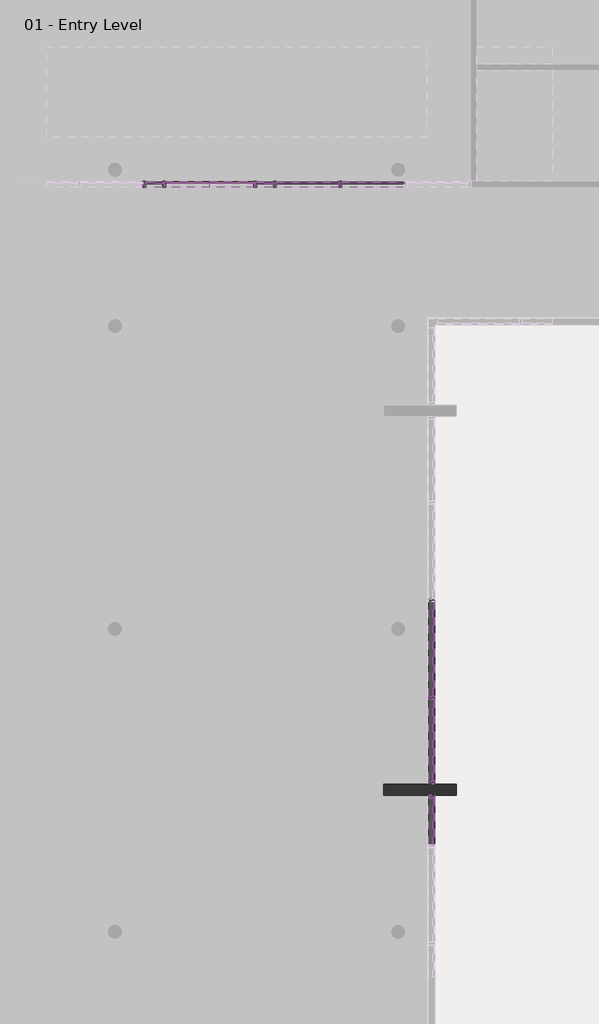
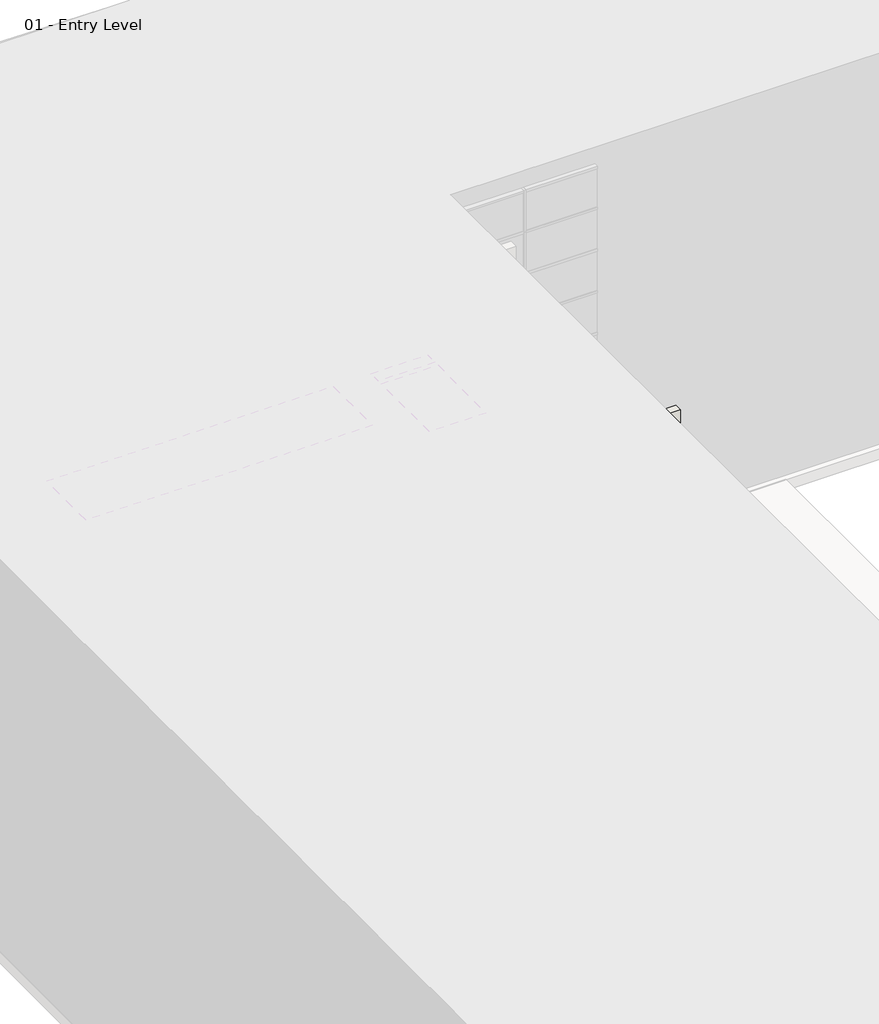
# One storey, part 24 of 34: 86 members, 35 plates, 1 door, 1 wall.
"""IFC4 building model written with IfcOpenShell, lengths in millimetres."""

from ifc_helpers import new_model, si_unit, origin, origin_with_axes, place, context, project, spatial, polyline, outline, extrude, transform, mapped, element, save
from components import curtain_wall_dbl_glass_curtain_wall_dbl_glass_a5de0235, member_2b49869a, member_75074519, member_18e22e2d, member_391b434c, member_9e90ae50, member_9193c932, member_515a5600, member_9fe7059d, member_547128e5, member_c8c2a2fa, member_6186cc23, member_5d67b9fc, member_ec52078f, member_cc8ff548, member_03a502dc, member_dfe75557, member_285f5b4f, member_410c6227, member_585e2b51, member_1526e78e, system_panel_glazed_1b9d6098, system_panel_glazed_70da479d, system_panel_glazed_bfb2913e, system_panel_glazed_9f006979, system_panel_glazed_379c68fb, system_panel_glazed_1c1023c8, system_panel_glazed_57fb76c6, system_panel_glazed_8597e1a2, system_panel_glazed_d48a954d, system_panel_glazed_239086b1, system_panel_glazed_d4f16d98

model = new_model("IFC4")

# Units and contexts
model_context = context("Model", 3, world=origin())
ifc_project = project(units=[si_unit("LENGTHUNIT", "METRE", prefix="MILLI")], contexts=[model_context])

# Site, building, storey
site = spatial("IfcSite", under=ifc_project)
building = spatial("IfcBuilding", under=site)
storey = spatial("IfcBuildingStorey", under=building, Name="01 - Entry Level", Elevation=0.0)

# Door
placement = place(None, origin())
curtain_wall_dbl_glass_curtain_wall_dbl_glass_shape = curtain_wall_dbl_glass_curtain_wall_dbl_glass_a5de0235(model_context)
element("IfcDoor", 1, ObjectType="Curtain Wall Dbl Glass : Curtain Wall Dbl Glass", at=placement, inside=storey, context=model_context, shape_type="MappedRepresentation", body=[
    mapped(curtain_wall_dbl_glass_curtain_wall_dbl_glass_shape, transform((12561.2207476, 45608.8, 0.0), x_axis=(-1.0, 0.0, 0.0), y_axis=(0.0, -1.0, 0.0), z_axis=(0.0, 0.0, 1.0))),
])

# Members
member_shape = member_2b49869a(model_context)
element("IfcMember", 2, ObjectType="Rectangular Mullion : 2.5\" x 5\" rectangular", at=placement, inside=storey, context=model_context, shape_type="MappedRepresentation", body=[
    mapped(member_shape, transform((17184.0207476, 34928.1, 9753.6), x_axis=(0.0, 1.0, 0.0), y_axis=(1.0, 0.0, 0.0), z_axis=(0.0, 0.0, -1.0))),
])
member_2_shape = member_75074519(model_context)
element("IfcMember", 3, ObjectType="Rectangular Mullion : 2.5\" x 5\" rectangular", at=placement, inside=storey, context=model_context, shape_type="MappedRepresentation", body=[
    mapped(member_2_shape, transform((17184.0207476, 33137.4, 10972.8), x_axis=(0.0, -1.0, 0.0), y_axis=(1.0, 0.0, 0.0), z_axis=(0.0, 0.0, 1.0))),
])
element("IfcMember", 4, ObjectType="Rectangular Mullion : 2.5\" x 5\" rectangular", at=placement, inside=storey, context=model_context, shape_type="MappedRepresentation", body=[
    mapped(member_2_shape, transform((17184.0207476, 32908.8, 9753.6), x_axis=(0.0, 1.0, 0.0), y_axis=(1.0, 0.0, 0.0), z_axis=(0.0, 0.0, -1.0))),
])
member_3_shape = member_18e22e2d(model_context)
element("IfcMember", 5, ObjectType="Rectangular Mullion : 2.5\" x 5\" rectangular", at=placement, inside=storey, context=model_context, shape_type="MappedRepresentation", body=[
    mapped(member_3_shape, transform((15279.0207476, 45608.8, 2438.4), x_axis=(-1.0, 0.0, 0.0), y_axis=(0.0, 1.0, 0.0), z_axis=(0.0, 0.0, -1.0))),
])
element("IfcMember", 6, ObjectType="Rectangular Mullion : 2.5\" x 5\" rectangular", at=placement, inside=storey, context=model_context, shape_type="MappedRepresentation", body=[
    mapped(member_3_shape, transform((13920.1207476, 45608.8, 2438.4), x_axis=(-1.0, 0.0, 0.0), y_axis=(0.0, 1.0, 0.0), z_axis=(0.0, 0.0, -1.0))),
])
element("IfcMember", 7, ObjectType="Rectangular Mullion : 2.5\" x 5\" rectangular", at=placement, inside=storey, context=model_context, shape_type="MappedRepresentation", body=[
    mapped(member_3_shape, transform((11202.3207476, 45608.8, 2438.4), x_axis=(-1.0, 0.0, 0.0), y_axis=(0.0, 1.0, 0.0), z_axis=(0.0, 0.0, -1.0))),
])
member_4_shape = member_391b434c(model_context)
element("IfcMember", 8, ObjectType="Rectangular Mullion : 2.5\" x 5\" rectangular", at=placement, inside=storey, context=model_context, shape_type="MappedRepresentation", body=[
    mapped(member_4_shape, transform((17184.0207476, 36928.35, 10972.8), x_axis=(0.0, 0.0, 1.0), y_axis=(1.0, 0.0, 0.0), z_axis=(0.0, 1.0, 0.0))),
])
element("IfcMember", 9, ObjectType="Rectangular Mullion : 2.5\" x 5\" rectangular", at=placement, inside=storey, context=model_context, shape_type="MappedRepresentation", body=[
    mapped(member_4_shape, transform((17184.0207476, 34959.85, 0.0), x_axis=(0.0, 0.0, -1.0), y_axis=(1.0, 0.0, 0.0), z_axis=(0.0, -1.0, 0.0))),
])
element("IfcMember", 10, ObjectType="Rectangular Mullion : 2.5\" x 5\" rectangular", at=placement, inside=storey, context=model_context, shape_type="MappedRepresentation", body=[
    mapped(member_4_shape, transform((17184.0207476, 36991.85, 0.0), x_axis=(0.0, 0.0, -1.0), y_axis=(1.0, 0.0, 0.0), z_axis=(0.0, -1.0, 0.0))),
])
member_5_shape = member_9e90ae50(model_context)
element("IfcMember", 11, ObjectType="Rectangular Mullion : 2.5\" x 5\" rectangular", at=placement, inside=storey, context=model_context, shape_type="MappedRepresentation", body=[
    mapped(member_5_shape, transform((17184.0207476, 36928.35, 1219.2), x_axis=(0.0, 0.0, 1.0), y_axis=(1.0, 0.0, 0.0), z_axis=(0.0, 1.0, 0.0))),
])
element("IfcMember", 12, ObjectType="Rectangular Mullion : 2.5\" x 5\" rectangular", at=placement, inside=storey, context=model_context, shape_type="MappedRepresentation", body=[
    mapped(member_5_shape, transform((17184.0207476, 36928.35, 2438.4), x_axis=(0.0, 0.0, 1.0), y_axis=(1.0, 0.0, 0.0), z_axis=(0.0, 1.0, 0.0))),
])
element("IfcMember", 13, ObjectType="Rectangular Mullion : 2.5\" x 5\" rectangular", at=placement, inside=storey, context=model_context, shape_type="MappedRepresentation", body=[
    mapped(member_5_shape, transform((17184.0207476, 36928.35, 3657.6), x_axis=(0.0, 0.0, 1.0), y_axis=(1.0, 0.0, 0.0), z_axis=(0.0, 1.0, 0.0))),
])
element("IfcMember", 14, ObjectType="Rectangular Mullion : 2.5\" x 5\" rectangular", at=placement, inside=storey, context=model_context, shape_type="MappedRepresentation", body=[
    mapped(member_5_shape, transform((17184.0207476, 36928.35, 4876.8), x_axis=(0.0, 0.0, 1.0), y_axis=(1.0, 0.0, 0.0), z_axis=(0.0, 1.0, 0.0))),
])
element("IfcMember", 15, ObjectType="Rectangular Mullion : 2.5\" x 5\" rectangular", at=placement, inside=storey, context=model_context, shape_type="MappedRepresentation", body=[
    mapped(member_5_shape, transform((17184.0207476, 36928.35, 6096.0), x_axis=(0.0, 0.0, 1.0), y_axis=(1.0, 0.0, 0.0), z_axis=(0.0, 1.0, 0.0))),
])
element("IfcMember", 16, ObjectType="Rectangular Mullion : 2.5\" x 5\" rectangular", at=placement, inside=storey, context=model_context, shape_type="MappedRepresentation", body=[
    mapped(member_5_shape, transform((17184.0207476, 36928.35, 7315.2), x_axis=(0.0, 0.0, 1.0), y_axis=(1.0, 0.0, 0.0), z_axis=(0.0, 1.0, 0.0))),
])
element("IfcMember", 17, ObjectType="Rectangular Mullion : 2.5\" x 5\" rectangular", at=placement, inside=storey, context=model_context, shape_type="MappedRepresentation", body=[
    mapped(member_5_shape, transform((17184.0207476, 36928.35, 8534.4), x_axis=(0.0, 0.0, 1.0), y_axis=(1.0, 0.0, 0.0), z_axis=(0.0, 1.0, 0.0))),
])
element("IfcMember", 18, ObjectType="Rectangular Mullion : 2.5\" x 5\" rectangular", at=placement, inside=storey, context=model_context, shape_type="MappedRepresentation", body=[
    mapped(member_5_shape, transform((17184.0207476, 36928.35, 9753.6), x_axis=(0.0, 0.0, 1.0), y_axis=(1.0, 0.0, 0.0), z_axis=(0.0, 1.0, 0.0))),
])
element("IfcMember", 19, ObjectType="Rectangular Mullion : 2.5\" x 5\" rectangular", at=placement, inside=storey, context=model_context, shape_type="MappedRepresentation", body=[
    mapped(member_shape, transform((17184.0207476, 34928.1, 0.0), x_axis=(0.0, 1.0, 0.0), y_axis=(1.0, 0.0, 0.0), z_axis=(0.0, 0.0, -1.0))),
])
element("IfcMember", 20, ObjectType="Rectangular Mullion : 2.5\" x 5\" rectangular", at=placement, inside=storey, context=model_context, shape_type="MappedRepresentation", body=[
    mapped(member_shape, transform((17184.0207476, 36960.1, 0.0), x_axis=(0.0, 1.0, 0.0), y_axis=(1.0, 0.0, 0.0), z_axis=(0.0, 0.0, -1.0))),
])
element("IfcMember", 21, ObjectType="Rectangular Mullion : 2.5\" x 5\" rectangular", at=placement, inside=storey, context=model_context, shape_type="MappedRepresentation", body=[
    mapped(member_shape, transform((17184.0207476, 34928.1, 1219.2), x_axis=(0.0, 1.0, 0.0), y_axis=(1.0, 0.0, 0.0), z_axis=(0.0, 0.0, -1.0))),
])
element("IfcMember", 22, ObjectType="Rectangular Mullion : 2.5\" x 5\" rectangular", at=placement, inside=storey, context=model_context, shape_type="MappedRepresentation", body=[
    mapped(member_shape, transform((17184.0207476, 34928.1, 2438.4), x_axis=(0.0, 1.0, 0.0), y_axis=(1.0, 0.0, 0.0), z_axis=(0.0, 0.0, -1.0))),
])
element("IfcMember", 23, ObjectType="Rectangular Mullion : 2.5\" x 5\" rectangular", at=placement, inside=storey, context=model_context, shape_type="MappedRepresentation", body=[
    mapped(member_shape, transform((17184.0207476, 34928.1, 3657.6), x_axis=(0.0, 1.0, 0.0), y_axis=(1.0, 0.0, 0.0), z_axis=(0.0, 0.0, -1.0))),
])
element("IfcMember", 24, ObjectType="Rectangular Mullion : 2.5\" x 5\" rectangular", at=placement, inside=storey, context=model_context, shape_type="MappedRepresentation", body=[
    mapped(member_shape, transform((17184.0207476, 34928.1, 4876.8), x_axis=(0.0, 1.0, 0.0), y_axis=(1.0, 0.0, 0.0), z_axis=(0.0, 0.0, -1.0))),
])
element("IfcMember", 25, ObjectType="Rectangular Mullion : 2.5\" x 5\" rectangular", at=placement, inside=storey, context=model_context, shape_type="MappedRepresentation", body=[
    mapped(member_shape, transform((17184.0207476, 34928.1, 6096.0), x_axis=(0.0, 1.0, 0.0), y_axis=(1.0, 0.0, 0.0), z_axis=(0.0, 0.0, -1.0))),
])
element("IfcMember", 26, ObjectType="Rectangular Mullion : 2.5\" x 5\" rectangular", at=placement, inside=storey, context=model_context, shape_type="MappedRepresentation", body=[
    mapped(member_shape, transform((17184.0207476, 34928.1, 7315.2), x_axis=(0.0, 1.0, 0.0), y_axis=(1.0, 0.0, 0.0), z_axis=(0.0, 0.0, -1.0))),
])
element("IfcMember", 27, ObjectType="Rectangular Mullion : 2.5\" x 5\" rectangular", at=placement, inside=storey, context=model_context, shape_type="MappedRepresentation", body=[
    mapped(member_shape, transform((17184.0207476, 34928.1, 8534.4), x_axis=(0.0, 1.0, 0.0), y_axis=(1.0, 0.0, 0.0), z_axis=(0.0, 0.0, -1.0))),
])
element("IfcMember", 28, ObjectType="Rectangular Mullion : 2.5\" x 5\" rectangular", at=placement, inside=storey, context=model_context, shape_type="MappedRepresentation", body=[
    mapped(member_2_shape, transform((17184.0207476, 32908.8, 0.0), x_axis=(0.0, 1.0, 0.0), y_axis=(1.0, 0.0, 0.0), z_axis=(0.0, 0.0, -1.0))),
])
element("IfcMember", 29, ObjectType="Rectangular Mullion : 2.5\" x 5\" rectangular", at=placement, inside=storey, context=model_context, shape_type="MappedRepresentation", body=[
    mapped(member_2_shape, transform((17184.0207476, 32908.8, 1219.2), x_axis=(0.0, 1.0, 0.0), y_axis=(1.0, 0.0, 0.0), z_axis=(0.0, 0.0, -1.0))),
])
element("IfcMember", 30, ObjectType="Rectangular Mullion : 2.5\" x 5\" rectangular", at=placement, inside=storey, context=model_context, shape_type="MappedRepresentation", body=[
    mapped(member_2_shape, transform((17184.0207476, 32908.8, 2438.4), x_axis=(0.0, 1.0, 0.0), y_axis=(1.0, 0.0, 0.0), z_axis=(0.0, 0.0, -1.0))),
])
element("IfcMember", 31, ObjectType="Rectangular Mullion : 2.5\" x 5\" rectangular", at=placement, inside=storey, context=model_context, shape_type="MappedRepresentation", body=[
    mapped(member_2_shape, transform((17184.0207476, 32908.8, 3657.6), x_axis=(0.0, 1.0, 0.0), y_axis=(1.0, 0.0, 0.0), z_axis=(0.0, 0.0, -1.0))),
])
element("IfcMember", 32, ObjectType="Rectangular Mullion : 2.5\" x 5\" rectangular", at=placement, inside=storey, context=model_context, shape_type="MappedRepresentation", body=[
    mapped(member_2_shape, transform((17184.0207476, 32908.8, 4876.8), x_axis=(0.0, 1.0, 0.0), y_axis=(1.0, 0.0, 0.0), z_axis=(0.0, 0.0, -1.0))),
])
element("IfcMember", 33, ObjectType="Rectangular Mullion : 2.5\" x 5\" rectangular", at=placement, inside=storey, context=model_context, shape_type="MappedRepresentation", body=[
    mapped(member_2_shape, transform((17184.0207476, 32908.8, 6096.0), x_axis=(0.0, 1.0, 0.0), y_axis=(1.0, 0.0, 0.0), z_axis=(0.0, 0.0, -1.0))),
])
element("IfcMember", 34, ObjectType="Rectangular Mullion : 2.5\" x 5\" rectangular", at=placement, inside=storey, context=model_context, shape_type="MappedRepresentation", body=[
    mapped(member_2_shape, transform((17184.0207476, 32908.8, 7315.2), x_axis=(0.0, 1.0, 0.0), y_axis=(1.0, 0.0, 0.0), z_axis=(0.0, 0.0, -1.0))),
])
element("IfcMember", 35, ObjectType="Rectangular Mullion : 2.5\" x 5\" rectangular", at=placement, inside=storey, context=model_context, shape_type="MappedRepresentation", body=[
    mapped(member_2_shape, transform((17184.0207476, 32908.8, 8534.4), x_axis=(0.0, 1.0, 0.0), y_axis=(1.0, 0.0, 0.0), z_axis=(0.0, 0.0, -1.0))),
])
element("IfcMember", 36, ObjectType="Rectangular Mullion : 2.5\" x 5\" rectangular", at=placement, inside=storey, context=model_context, shape_type="MappedRepresentation", body=[
    mapped(member_2_shape, transform((17184.0207476, 33137.4, 1219.2), x_axis=(0.0, -1.0, 0.0), y_axis=(1.0, 0.0, 0.0), z_axis=(0.0, 0.0, 1.0))),
])
element("IfcMember", 37, ObjectType="Rectangular Mullion : 2.5\" x 5\" rectangular", at=placement, inside=storey, context=model_context, shape_type="MappedRepresentation", body=[
    mapped(member_2_shape, transform((17184.0207476, 33137.4, 2438.4), x_axis=(0.0, -1.0, 0.0), y_axis=(1.0, 0.0, 0.0), z_axis=(0.0, 0.0, 1.0))),
])
element("IfcMember", 38, ObjectType="Rectangular Mullion : 2.5\" x 5\" rectangular", at=placement, inside=storey, context=model_context, shape_type="MappedRepresentation", body=[
    mapped(member_2_shape, transform((17184.0207476, 33137.4, 3657.6), x_axis=(0.0, -1.0, 0.0), y_axis=(1.0, 0.0, 0.0), z_axis=(0.0, 0.0, 1.0))),
])
element("IfcMember", 39, ObjectType="Rectangular Mullion : 2.5\" x 5\" rectangular", at=placement, inside=storey, context=model_context, shape_type="MappedRepresentation", body=[
    mapped(member_2_shape, transform((17184.0207476, 33137.4, 4876.8), x_axis=(0.0, -1.0, 0.0), y_axis=(1.0, 0.0, 0.0), z_axis=(0.0, 0.0, 1.0))),
])
element("IfcMember", 40, ObjectType="Rectangular Mullion : 2.5\" x 5\" rectangular", at=placement, inside=storey, context=model_context, shape_type="MappedRepresentation", body=[
    mapped(member_2_shape, transform((17184.0207476, 33137.4, 6096.0), x_axis=(0.0, -1.0, 0.0), y_axis=(1.0, 0.0, 0.0), z_axis=(0.0, 0.0, 1.0))),
])
element("IfcMember", 41, ObjectType="Rectangular Mullion : 2.5\" x 5\" rectangular", at=placement, inside=storey, context=model_context, shape_type="MappedRepresentation", body=[
    mapped(member_2_shape, transform((17184.0207476, 33137.4, 7315.2), x_axis=(0.0, -1.0, 0.0), y_axis=(1.0, 0.0, 0.0), z_axis=(0.0, 0.0, 1.0))),
])
element("IfcMember", 42, ObjectType="Rectangular Mullion : 2.5\" x 5\" rectangular", at=placement, inside=storey, context=model_context, shape_type="MappedRepresentation", body=[
    mapped(member_2_shape, transform((17184.0207476, 33137.4, 8534.4), x_axis=(0.0, -1.0, 0.0), y_axis=(1.0, 0.0, 0.0), z_axis=(0.0, 0.0, 1.0))),
])
element("IfcMember", 43, ObjectType="Rectangular Mullion : 2.5\" x 5\" rectangular", at=placement, inside=storey, context=model_context, shape_type="MappedRepresentation", body=[
    mapped(member_2_shape, transform((17184.0207476, 33137.4, 9753.6), x_axis=(0.0, -1.0, 0.0), y_axis=(1.0, 0.0, 0.0), z_axis=(0.0, 0.0, 1.0))),
])
member_6_shape = member_9193c932(model_context)
element("IfcMember", 44, ObjectType="Rectangular Mullion : 2.5\" x 5\" rectangular", at=placement, inside=storey, context=model_context, shape_type="MappedRepresentation", body=[
    mapped(member_6_shape, transform((17184.0207476, 32845.3, 10972.8), x_axis=(0.0, 0.0, 1.0), y_axis=(1.0, 0.0, 0.0), z_axis=(0.0, 1.0, 0.0))),
])
element("IfcMember", 45, ObjectType="Rectangular Mullion : 2.5\" x 5\" rectangular", at=placement, inside=storey, context=model_context, shape_type="MappedRepresentation", body=[
    mapped(member_3_shape, transform((17184.0207476, 32845.3, 1219.2), x_axis=(0.0, 0.0, 1.0), y_axis=(1.0, 0.0, 0.0), z_axis=(0.0, 1.0, 0.0))),
])
element("IfcMember", 46, ObjectType="Rectangular Mullion : 2.5\" x 5\" rectangular", at=placement, inside=storey, context=model_context, shape_type="MappedRepresentation", body=[
    mapped(member_3_shape, transform((17184.0207476, 32845.3, 2438.4), x_axis=(0.0, 0.0, 1.0), y_axis=(1.0, 0.0, 0.0), z_axis=(0.0, 1.0, 0.0))),
])
element("IfcMember", 47, ObjectType="Rectangular Mullion : 2.5\" x 5\" rectangular", at=placement, inside=storey, context=model_context, shape_type="MappedRepresentation", body=[
    mapped(member_3_shape, transform((17184.0207476, 32845.3, 3657.6), x_axis=(0.0, 0.0, 1.0), y_axis=(1.0, 0.0, 0.0), z_axis=(0.0, 1.0, 0.0))),
])
element("IfcMember", 48, ObjectType="Rectangular Mullion : 2.5\" x 5\" rectangular", at=placement, inside=storey, context=model_context, shape_type="MappedRepresentation", body=[
    mapped(member_3_shape, transform((17184.0207476, 32845.3, 4876.8), x_axis=(0.0, 0.0, 1.0), y_axis=(1.0, 0.0, 0.0), z_axis=(0.0, 1.0, 0.0))),
])
element("IfcMember", 49, ObjectType="Rectangular Mullion : 2.5\" x 5\" rectangular", at=placement, inside=storey, context=model_context, shape_type="MappedRepresentation", body=[
    mapped(member_3_shape, transform((17184.0207476, 32845.3, 6096.0), x_axis=(0.0, 0.0, 1.0), y_axis=(1.0, 0.0, 0.0), z_axis=(0.0, 1.0, 0.0))),
])
element("IfcMember", 50, ObjectType="Rectangular Mullion : 2.5\" x 5\" rectangular", at=placement, inside=storey, context=model_context, shape_type="MappedRepresentation", body=[
    mapped(member_3_shape, transform((17184.0207476, 32845.3, 7315.2), x_axis=(0.0, 0.0, 1.0), y_axis=(1.0, 0.0, 0.0), z_axis=(0.0, 1.0, 0.0))),
])
element("IfcMember", 51, ObjectType="Rectangular Mullion : 2.5\" x 5\" rectangular", at=placement, inside=storey, context=model_context, shape_type="MappedRepresentation", body=[
    mapped(member_3_shape, transform((17184.0207476, 32845.3, 8534.4), x_axis=(0.0, 0.0, 1.0), y_axis=(1.0, 0.0, 0.0), z_axis=(0.0, 1.0, 0.0))),
])
element("IfcMember", 52, ObjectType="Rectangular Mullion : 2.5\" x 5\" rectangular", at=placement, inside=storey, context=model_context, shape_type="MappedRepresentation", body=[
    mapped(member_3_shape, transform((17184.0207476, 32845.3, 9753.6), x_axis=(0.0, 0.0, 1.0), y_axis=(1.0, 0.0, 0.0), z_axis=(0.0, 1.0, 0.0))),
])
member_7_shape = member_515a5600(model_context)
element("IfcMember", 53, ObjectType="Rectangular Mullion : 2.5\" x 5\" rectangular", at=placement, inside=storey, context=model_context, shape_type="MappedRepresentation", body=[
    mapped(member_7_shape, transform((17184.0207476, 34896.35, 10972.8), x_axis=(0.0, 0.0, 1.0), y_axis=(1.0, 0.0, 0.0), z_axis=(0.0, 1.0, 0.0))),
])
element("IfcMember", 54, ObjectType="Rectangular Mullion : 2.5\" x 5\" rectangular", at=placement, inside=storey, context=model_context, shape_type="MappedRepresentation", body=[
    mapped(member_7_shape, transform((17184.0207476, 33200.9, 0.0), x_axis=(0.0, 0.0, -1.0), y_axis=(1.0, 0.0, 0.0), z_axis=(0.0, -1.0, 0.0))),
])
member_8_shape = member_9fe7059d(model_context)
element("IfcMember", 55, ObjectType="Rectangular Mullion : 2.5\" x 5\" rectangular", at=placement, inside=storey, context=model_context, shape_type="MappedRepresentation", body=[
    mapped(member_8_shape, transform((17184.0207476, 34896.35, 1219.2), x_axis=(0.0, 0.0, 1.0), y_axis=(1.0, 0.0, 0.0), z_axis=(0.0, 1.0, 0.0))),
])
element("IfcMember", 56, ObjectType="Rectangular Mullion : 2.5\" x 5\" rectangular", at=placement, inside=storey, context=model_context, shape_type="MappedRepresentation", body=[
    mapped(member_8_shape, transform((17184.0207476, 34896.35, 2438.4), x_axis=(0.0, 0.0, 1.0), y_axis=(1.0, 0.0, 0.0), z_axis=(0.0, 1.0, 0.0))),
])
element("IfcMember", 57, ObjectType="Rectangular Mullion : 2.5\" x 5\" rectangular", at=placement, inside=storey, context=model_context, shape_type="MappedRepresentation", body=[
    mapped(member_8_shape, transform((17184.0207476, 34896.35, 3657.6), x_axis=(0.0, 0.0, 1.0), y_axis=(1.0, 0.0, 0.0), z_axis=(0.0, 1.0, 0.0))),
])
element("IfcMember", 58, ObjectType="Rectangular Mullion : 2.5\" x 5\" rectangular", at=placement, inside=storey, context=model_context, shape_type="MappedRepresentation", body=[
    mapped(member_8_shape, transform((17184.0207476, 34896.35, 4876.8), x_axis=(0.0, 0.0, 1.0), y_axis=(1.0, 0.0, 0.0), z_axis=(0.0, 1.0, 0.0))),
])
element("IfcMember", 59, ObjectType="Rectangular Mullion : 2.5\" x 5\" rectangular", at=placement, inside=storey, context=model_context, shape_type="MappedRepresentation", body=[
    mapped(member_8_shape, transform((17184.0207476, 34896.35, 6096.0), x_axis=(0.0, 0.0, 1.0), y_axis=(1.0, 0.0, 0.0), z_axis=(0.0, 1.0, 0.0))),
])
element("IfcMember", 60, ObjectType="Rectangular Mullion : 2.5\" x 5\" rectangular", at=placement, inside=storey, context=model_context, shape_type="MappedRepresentation", body=[
    mapped(member_8_shape, transform((17184.0207476, 34896.35, 7315.2), x_axis=(0.0, 0.0, 1.0), y_axis=(1.0, 0.0, 0.0), z_axis=(0.0, 1.0, 0.0))),
])
element("IfcMember", 61, ObjectType="Rectangular Mullion : 2.5\" x 5\" rectangular", at=placement, inside=storey, context=model_context, shape_type="MappedRepresentation", body=[
    mapped(member_8_shape, transform((17184.0207476, 34896.35, 8534.4), x_axis=(0.0, 0.0, 1.0), y_axis=(1.0, 0.0, 0.0), z_axis=(0.0, 1.0, 0.0))),
])
element("IfcMember", 62, ObjectType="Rectangular Mullion : 2.5\" x 5\" rectangular", at=placement, inside=storey, context=model_context, shape_type="MappedRepresentation", body=[
    mapped(member_8_shape, transform((17184.0207476, 34896.35, 9753.6), x_axis=(0.0, 0.0, 1.0), y_axis=(1.0, 0.0, 0.0), z_axis=(0.0, 1.0, 0.0))),
])
member_9_shape = member_547128e5(model_context)
element("IfcMember", 63, ObjectType="Rectangular Mullion : 2.5\" x 5\" rectangular", at=placement, inside=storey, context=model_context, shape_type="MappedRepresentation", body=[
    mapped(member_9_shape, transform((15310.7707476, 45608.8, 3403.6), x_axis=(0.0, 0.0, 1.0), y_axis=(0.0, 1.0, 0.0), z_axis=(-1.0, 0.0, 0.0))),
])
element("IfcMember", 64, ObjectType="Rectangular Mullion : 2.5\" x 5\" rectangular", at=placement, inside=storey, context=model_context, shape_type="MappedRepresentation", body=[
    mapped(member_9_shape, transform((13951.8707476, 45608.8, 3403.6), x_axis=(0.0, 0.0, 1.0), y_axis=(0.0, 1.0, 0.0), z_axis=(-1.0, 0.0, 0.0))),
])
element("IfcMember", 65, ObjectType="Rectangular Mullion : 2.5\" x 5\" rectangular", at=placement, inside=storey, context=model_context, shape_type="MappedRepresentation", body=[
    mapped(member_9_shape, transform((15247.2707476, 45608.8, 0.0), x_axis=(0.0, 0.0, -1.0), y_axis=(0.0, 1.0, 0.0), z_axis=(1.0, 0.0, 0.0))),
])
member_10_shape = member_c8c2a2fa(model_context)
element("IfcMember", 66, ObjectType="Rectangular Mullion : 2.5\" x 5\" rectangular", at=placement, inside=storey, context=model_context, shape_type="MappedRepresentation", body=[
    mapped(member_10_shape, transform((15310.7707476, 45608.8, 2438.4), x_axis=(0.0, 0.0, 1.0), y_axis=(0.0, 1.0, 0.0), z_axis=(-1.0, 0.0, 0.0))),
])
element("IfcMember", 67, ObjectType="Rectangular Mullion : 2.5\" x 5\" rectangular", at=placement, inside=storey, context=model_context, shape_type="MappedRepresentation", body=[
    mapped(member_10_shape, transform((13951.8707476, 45608.8, 2438.4), x_axis=(0.0, 0.0, 1.0), y_axis=(0.0, 1.0, 0.0), z_axis=(-1.0, 0.0, 0.0))),
])
member_11_shape = member_6186cc23(model_context)
element("IfcMember", 68, ObjectType="Rectangular Mullion : 2.5\" x 5\" rectangular", at=placement, inside=storey, context=model_context, shape_type="MappedRepresentation", body=[
    mapped(member_11_shape, transform((13920.1207476, 45608.8, 0.0), x_axis=(-1.0, 0.0, 0.0), y_axis=(0.0, 1.0, 0.0), z_axis=(0.0, 0.0, -1.0))),
])
element("IfcMember", 69, ObjectType="Rectangular Mullion : 2.5\" x 5\" rectangular", at=placement, inside=storey, context=model_context, shape_type="MappedRepresentation", body=[
    mapped(member_11_shape, transform((11202.3207476, 45608.8, 0.0), x_axis=(-1.0, 0.0, 0.0), y_axis=(0.0, 1.0, 0.0), z_axis=(0.0, 0.0, -1.0))),
])
member_12_shape = member_5d67b9fc(model_context)
element("IfcMember", 70, ObjectType="Rectangular Mullion : 2.5\" x 5\" rectangular", at=placement, inside=storey, context=model_context, shape_type="MappedRepresentation", body=[
    mapped(member_12_shape, transform((13920.1207476, 45608.8, 2165.35), x_axis=(-1.0, 0.0, 0.0), y_axis=(0.0, 1.0, 0.0), z_axis=(0.0, 0.0, -1.0))),
])
element("IfcMember", 71, ObjectType="Rectangular Mullion : 2.5\" x 5\" rectangular", at=placement, inside=storey, context=model_context, shape_type="MappedRepresentation", body=[
    mapped(member_12_shape, transform((11202.3207476, 45608.8, 2165.35), x_axis=(-1.0, 0.0, 0.0), y_axis=(0.0, 1.0, 0.0), z_axis=(0.0, 0.0, -1.0))),
])
element("IfcMember", 72, ObjectType="Rectangular Mullion : 2.5\" x 5\" rectangular", at=placement, inside=storey, context=model_context, shape_type="MappedRepresentation", body=[
    mapped(member_11_shape, transform((15279.0207476, 45608.8, 0.0), x_axis=(-1.0, 0.0, 0.0), y_axis=(0.0, 1.0, 0.0), z_axis=(0.0, 0.0, -1.0))),
])
element("IfcMember", 73, ObjectType="Rectangular Mullion : 2.5\" x 5\" rectangular", at=placement, inside=storey, context=model_context, shape_type="MappedRepresentation", body=[
    mapped(member_12_shape, transform((15279.0207476, 45608.8, 2165.35), x_axis=(-1.0, 0.0, 0.0), y_axis=(0.0, 1.0, 0.0), z_axis=(0.0, 0.0, -1.0))),
])
member_13_shape = member_ec52078f(model_context)
element("IfcMember", 74, ObjectType="Rectangular Mullion : 2.5\" x 5\" rectangular", at=placement, inside=storey, context=model_context, shape_type="MappedRepresentation", body=[
    mapped(member_13_shape, transform((12561.2207476, 45608.8, 2438.4), x_axis=(0.0, 0.0, 1.0), y_axis=(0.0, 1.0, 0.0), z_axis=(-1.0, 0.0, 0.0))),
])
member_14_shape = member_cc8ff548(model_context)
element("IfcMember", 75, ObjectType="Rectangular Mullion : 2.5\" x 5\" rectangular", at=placement, inside=storey, context=model_context, shape_type="MappedRepresentation", body=[
    mapped(member_14_shape, transform((12561.2207476, 45608.8, 3403.6), x_axis=(0.0, 0.0, 1.0), y_axis=(0.0, 1.0, 0.0), z_axis=(-1.0, 0.0, 0.0))),
])
element("IfcMember", 76, ObjectType="Rectangular Mullion : 2.5\" x 5\" rectangular", at=placement, inside=storey, context=model_context, shape_type="MappedRepresentation", body=[
    mapped(member_14_shape, transform((11615.0707476, 45608.8, 3403.6), x_axis=(0.0, 0.0, 1.0), y_axis=(0.0, 1.0, 0.0), z_axis=(-1.0, 0.0, 0.0))),
])
member_15_shape = member_03a502dc(model_context)
element("IfcMember", 77, ObjectType="Rectangular Mullion : 2.5\" x 5\" rectangular", at=placement, inside=storey, context=model_context, shape_type="MappedRepresentation", body=[
    mapped(member_15_shape, transform((11234.0707476, 45608.8, 2438.4), x_axis=(0.0, 0.0, 1.0), y_axis=(0.0, 1.0, 0.0), z_axis=(-1.0, 0.0, 0.0))),
])
element("IfcMember", 78, ObjectType="Rectangular Mullion : 2.5\" x 5\" rectangular", at=placement, inside=storey, context=model_context, shape_type="MappedRepresentation", body=[
    mapped(member_15_shape, transform((13507.3707476, 45608.8, 2438.4), x_axis=(0.0, 0.0, 1.0), y_axis=(0.0, 1.0, 0.0), z_axis=(-1.0, 0.0, 0.0))),
])
member_16_shape = member_dfe75557(model_context)
element("IfcMember", 79, ObjectType="Rectangular Mullion : 2.5\" x 5\" rectangular", at=placement, inside=storey, context=model_context, shape_type="MappedRepresentation", body=[
    mapped(member_16_shape, transform((13507.3707476, 45608.8, 3403.6), x_axis=(0.0, 0.0, 1.0), y_axis=(0.0, 1.0, 0.0), z_axis=(-1.0, 0.0, 0.0))),
])
member_17_shape = member_285f5b4f(model_context)
element("IfcMember", 80, ObjectType="Rectangular Mullion : 2.5\" x 5\" rectangular", at=placement, inside=storey, context=model_context, shape_type="MappedRepresentation", body=[
    mapped(member_17_shape, transform((11583.3207476, 45608.8, 0.0), x_axis=(0.0, 0.0, -1.0), y_axis=(0.0, 1.0, 0.0), z_axis=(1.0, 0.0, 0.0))),
])
element("IfcMember", 81, ObjectType="Rectangular Mullion : 2.5\" x 5\" rectangular", at=placement, inside=storey, context=model_context, shape_type="MappedRepresentation", body=[
    mapped(member_17_shape, transform((13888.3707476, 45608.8, 0.0), x_axis=(0.0, 0.0, -1.0), y_axis=(0.0, 1.0, 0.0), z_axis=(1.0, 0.0, 0.0))),
])
member_18_shape = member_410c6227(model_context)
element("IfcMember", 82, ObjectType="Rectangular Mullion : 2.5\" x 5\" rectangular", at=placement, inside=storey, context=model_context, shape_type="MappedRepresentation", body=[
    mapped(member_18_shape, transform((11646.8207476, 45608.8, 2165.35), x_axis=(0.0, 0.0, 1.0), y_axis=(0.0, 1.0, 0.0), z_axis=(-1.0, 0.0, 0.0))),
])
member_19_shape = member_585e2b51(model_context)
element("IfcMember", 83, ObjectType="Rectangular Mullion : 2.5\" x 5\" rectangular", at=placement, inside=storey, context=model_context, shape_type="MappedRepresentation", body=[
    mapped(member_19_shape, transform((13539.1207476, 45608.8, 2165.35), x_axis=(0.0, 0.0, 1.0), y_axis=(0.0, 1.0, 0.0), z_axis=(-1.0, 0.0, 0.0))),
])
element("IfcMember", 84, ObjectType="Rectangular Mullion : 2.5\" x 5\" rectangular", at=placement, inside=storey, context=model_context, shape_type="MappedRepresentation", body=[
    mapped(member_19_shape, transform((11234.0707476, 45608.8, 2165.35), x_axis=(0.0, 0.0, 1.0), y_axis=(0.0, 1.0, 0.0), z_axis=(-1.0, 0.0, 0.0))),
])
member_20_shape = member_1526e78e(model_context)
element("IfcMember", 85, ObjectType="Rectangular Mullion : 2.5\" x 5\" rectangular", at=placement, inside=storey, context=model_context, shape_type="MappedRepresentation", body=[
    mapped(member_20_shape, transform((11615.0707476, 45608.8, 0.0), x_axis=(-1.0, 0.0, 0.0), y_axis=(0.0, 1.0, 0.0), z_axis=(0.0, 0.0, -1.0))),
])
element("IfcMember", 86, ObjectType="Rectangular Mullion : 2.5\" x 5\" rectangular", at=placement, inside=storey, context=model_context, shape_type="MappedRepresentation", body=[
    mapped(member_20_shape, transform((13507.3707476, 45608.8, 0.0), x_axis=(-1.0, 0.0, 0.0), y_axis=(0.0, 1.0, 0.0), z_axis=(0.0, 0.0, -1.0))),
])
element("IfcMember", 87, ObjectType="Rectangular Mullion : 2.5\" x 5\" rectangular", at=placement, inside=storey, context=model_context, shape_type="MappedRepresentation", body=[
    mapped(member_18_shape, transform((12561.2207476, 45608.8, 2165.35), x_axis=(0.0, 0.0, 1.0), y_axis=(0.0, 1.0, 0.0), z_axis=(-1.0, 0.0, 0.0))),
])

# Plates
system_panel_glazed_shape = system_panel_glazed_1b9d6098(model_context)
element("IfcPlate", 88, ObjectType="System Panel : Glazed", at=placement, inside=storey, context=model_context, shape_type="MappedRepresentation", body=[
    mapped(system_panel_glazed_shape, transform((17184.0207476, 35944.1, 63.5), x_axis=(0.0, 1.0, 0.0), y_axis=(-1.0, 0.0, 0.0), z_axis=(0.0, 0.0, 1.0))),
])
element("IfcPlate", 89, ObjectType="System Panel : Glazed", at=placement, inside=storey, context=model_context, shape_type="MappedRepresentation", body=[
    mapped(system_panel_glazed_shape, transform((17184.0207476, 35944.1, 9785.35), x_axis=(0.0, 1.0, 0.0), y_axis=(-1.0, 0.0, 0.0), z_axis=(0.0, 0.0, 1.0))),
])
system_panel_glazed_2_shape = system_panel_glazed_70da479d(model_context)
element("IfcPlate", 90, ObjectType="System Panel : Glazed", at=placement, inside=storey, context=model_context, shape_type="MappedRepresentation", body=[
    mapped(system_panel_glazed_2_shape, transform((17184.0207476, 35944.1, 1250.95), x_axis=(0.0, 1.0, 0.0), y_axis=(-1.0, 0.0, 0.0), z_axis=(0.0, 0.0, 1.0))),
])
element("IfcPlate", 91, ObjectType="System Panel : Glazed", at=placement, inside=storey, context=model_context, shape_type="MappedRepresentation", body=[
    mapped(system_panel_glazed_2_shape, transform((17184.0207476, 35944.1, 2470.15), x_axis=(0.0, 1.0, 0.0), y_axis=(-1.0, 0.0, 0.0), z_axis=(0.0, 0.0, 1.0))),
])
element("IfcPlate", 92, ObjectType="System Panel : Glazed", at=placement, inside=storey, context=model_context, shape_type="MappedRepresentation", body=[
    mapped(system_panel_glazed_2_shape, transform((17184.0207476, 35944.1, 3689.35), x_axis=(0.0, 1.0, 0.0), y_axis=(-1.0, 0.0, 0.0), z_axis=(0.0, 0.0, 1.0))),
])
element("IfcPlate", 93, ObjectType="System Panel : Glazed", at=placement, inside=storey, context=model_context, shape_type="MappedRepresentation", body=[
    mapped(system_panel_glazed_2_shape, transform((17184.0207476, 35944.1, 4908.55), x_axis=(0.0, 1.0, 0.0), y_axis=(-1.0, 0.0, 0.0), z_axis=(0.0, 0.0, 1.0))),
])
element("IfcPlate", 94, ObjectType="System Panel : Glazed", at=placement, inside=storey, context=model_context, shape_type="MappedRepresentation", body=[
    mapped(system_panel_glazed_2_shape, transform((17184.0207476, 35944.1, 6127.75), x_axis=(0.0, 1.0, 0.0), y_axis=(-1.0, 0.0, 0.0), z_axis=(0.0, 0.0, 1.0))),
])
element("IfcPlate", 95, ObjectType="System Panel : Glazed", at=placement, inside=storey, context=model_context, shape_type="MappedRepresentation", body=[
    mapped(system_panel_glazed_2_shape, transform((17184.0207476, 35944.1, 7346.95), x_axis=(0.0, 1.0, 0.0), y_axis=(-1.0, 0.0, 0.0), z_axis=(0.0, 0.0, 1.0))),
])
element("IfcPlate", 96, ObjectType="System Panel : Glazed", at=placement, inside=storey, context=model_context, shape_type="MappedRepresentation", body=[
    mapped(system_panel_glazed_2_shape, transform((17184.0207476, 35944.1, 8566.15), x_axis=(0.0, 1.0, 0.0), y_axis=(-1.0, 0.0, 0.0), z_axis=(0.0, 0.0, 1.0))),
])
system_panel_glazed_3_shape = system_panel_glazed_bfb2913e(model_context)
element("IfcPlate", 97, ObjectType="System Panel : Glazed", at=placement, inside=storey, context=model_context, shape_type="MappedRepresentation", body=[
    mapped(system_panel_glazed_3_shape, transform((17184.0207476, 32362.7, 63.5), x_axis=(0.0, 1.0, 0.0), y_axis=(-1.0, 0.0, 0.0), z_axis=(0.0, 0.0, 1.0))),
])
element("IfcPlate", 98, ObjectType="System Panel : Glazed", at=placement, inside=storey, context=model_context, shape_type="MappedRepresentation", body=[
    mapped(system_panel_glazed_3_shape, transform((17184.0207476, 32362.7, 9785.35), x_axis=(0.0, 1.0, 0.0), y_axis=(-1.0, 0.0, 0.0), z_axis=(0.0, 0.0, 1.0))),
])
system_panel_glazed_4_shape = system_panel_glazed_9f006979(model_context)
element("IfcPlate", 99, ObjectType="System Panel : Glazed", at=placement, inside=storey, context=model_context, shape_type="MappedRepresentation", body=[
    mapped(system_panel_glazed_4_shape, transform((17184.0207476, 32362.7, 1250.95), x_axis=(0.0, 1.0, 0.0), y_axis=(-1.0, 0.0, 0.0), z_axis=(0.0, 0.0, 1.0))),
])
element("IfcPlate", 100, ObjectType="System Panel : Glazed", at=placement, inside=storey, context=model_context, shape_type="MappedRepresentation", body=[
    mapped(system_panel_glazed_4_shape, transform((17184.0207476, 32362.7, 2470.15), x_axis=(0.0, 1.0, 0.0), y_axis=(-1.0, 0.0, 0.0), z_axis=(0.0, 0.0, 1.0))),
])
element("IfcPlate", 101, ObjectType="System Panel : Glazed", at=placement, inside=storey, context=model_context, shape_type="MappedRepresentation", body=[
    mapped(system_panel_glazed_4_shape, transform((17184.0207476, 32362.7, 3689.35), x_axis=(0.0, 1.0, 0.0), y_axis=(-1.0, 0.0, 0.0), z_axis=(0.0, 0.0, 1.0))),
])
element("IfcPlate", 102, ObjectType="System Panel : Glazed", at=placement, inside=storey, context=model_context, shape_type="MappedRepresentation", body=[
    mapped(system_panel_glazed_4_shape, transform((17184.0207476, 32362.7, 4908.55), x_axis=(0.0, 1.0, 0.0), y_axis=(-1.0, 0.0, 0.0), z_axis=(0.0, 0.0, 1.0))),
])
element("IfcPlate", 103, ObjectType="System Panel : Glazed", at=placement, inside=storey, context=model_context, shape_type="MappedRepresentation", body=[
    mapped(system_panel_glazed_4_shape, transform((17184.0207476, 32362.7, 6127.75), x_axis=(0.0, 1.0, 0.0), y_axis=(-1.0, 0.0, 0.0), z_axis=(0.0, 0.0, 1.0))),
])
element("IfcPlate", 104, ObjectType="System Panel : Glazed", at=placement, inside=storey, context=model_context, shape_type="MappedRepresentation", body=[
    mapped(system_panel_glazed_4_shape, transform((17184.0207476, 32362.7, 7346.95), x_axis=(0.0, 1.0, 0.0), y_axis=(-1.0, 0.0, 0.0), z_axis=(0.0, 0.0, 1.0))),
])
element("IfcPlate", 105, ObjectType="System Panel : Glazed", at=placement, inside=storey, context=model_context, shape_type="MappedRepresentation", body=[
    mapped(system_panel_glazed_4_shape, transform((17184.0207476, 32362.7, 8566.15), x_axis=(0.0, 1.0, 0.0), y_axis=(-1.0, 0.0, 0.0), z_axis=(0.0, 0.0, 1.0))),
])
system_panel_glazed_5_shape = system_panel_glazed_379c68fb(model_context)
element("IfcPlate", 106, ObjectType="System Panel : Glazed", at=placement, inside=storey, context=model_context, shape_type="MappedRepresentation", body=[
    mapped(system_panel_glazed_5_shape, transform((17184.0207476, 34048.625, 63.5), x_axis=(0.0, 1.0, 0.0), y_axis=(-1.0, 0.0, 0.0), z_axis=(0.0, 0.0, 1.0))),
])
element("IfcPlate", 107, ObjectType="System Panel : Glazed", at=placement, inside=storey, context=model_context, shape_type="MappedRepresentation", body=[
    mapped(system_panel_glazed_5_shape, transform((17184.0207476, 34048.625, 9785.35), x_axis=(0.0, 1.0, 0.0), y_axis=(-1.0, 0.0, 0.0), z_axis=(0.0, 0.0, 1.0))),
])
system_panel_glazed_6_shape = system_panel_glazed_1c1023c8(model_context)
element("IfcPlate", 108, ObjectType="System Panel : Glazed", at=placement, inside=storey, context=model_context, shape_type="MappedRepresentation", body=[
    mapped(system_panel_glazed_6_shape, transform((17184.0207476, 34048.625, 1250.95), x_axis=(0.0, 1.0, 0.0), y_axis=(-1.0, 0.0, 0.0), z_axis=(0.0, 0.0, 1.0))),
])
element("IfcPlate", 109, ObjectType="System Panel : Glazed", at=placement, inside=storey, context=model_context, shape_type="MappedRepresentation", body=[
    mapped(system_panel_glazed_6_shape, transform((17184.0207476, 34048.625, 2470.15), x_axis=(0.0, 1.0, 0.0), y_axis=(-1.0, 0.0, 0.0), z_axis=(0.0, 0.0, 1.0))),
])
element("IfcPlate", 110, ObjectType="System Panel : Glazed", at=placement, inside=storey, context=model_context, shape_type="MappedRepresentation", body=[
    mapped(system_panel_glazed_6_shape, transform((17184.0207476, 34048.625, 3689.35), x_axis=(0.0, 1.0, 0.0), y_axis=(-1.0, 0.0, 0.0), z_axis=(0.0, 0.0, 1.0))),
])
element("IfcPlate", 111, ObjectType="System Panel : Glazed", at=placement, inside=storey, context=model_context, shape_type="MappedRepresentation", body=[
    mapped(system_panel_glazed_6_shape, transform((17184.0207476, 34048.625, 4908.55), x_axis=(0.0, 1.0, 0.0), y_axis=(-1.0, 0.0, 0.0), z_axis=(0.0, 0.0, 1.0))),
])
element("IfcPlate", 112, ObjectType="System Panel : Glazed", at=placement, inside=storey, context=model_context, shape_type="MappedRepresentation", body=[
    mapped(system_panel_glazed_6_shape, transform((17184.0207476, 34048.625, 6127.75), x_axis=(0.0, 1.0, 0.0), y_axis=(-1.0, 0.0, 0.0), z_axis=(0.0, 0.0, 1.0))),
])
element("IfcPlate", 113, ObjectType="System Panel : Glazed", at=placement, inside=storey, context=model_context, shape_type="MappedRepresentation", body=[
    mapped(system_panel_glazed_6_shape, transform((17184.0207476, 34048.625, 7346.95), x_axis=(0.0, 1.0, 0.0), y_axis=(-1.0, 0.0, 0.0), z_axis=(0.0, 0.0, 1.0))),
])
element("IfcPlate", 114, ObjectType="System Panel : Glazed", at=placement, inside=storey, context=model_context, shape_type="MappedRepresentation", body=[
    mapped(system_panel_glazed_6_shape, transform((17184.0207476, 34048.625, 8566.15), x_axis=(0.0, 1.0, 0.0), y_axis=(-1.0, 0.0, 0.0), z_axis=(0.0, 0.0, 1.0))),
])
system_panel_glazed_7_shape = system_panel_glazed_57fb76c6(model_context)
element("IfcPlate", 115, ObjectType="System Panel : Glazed", at=placement, inside=storey, context=model_context, shape_type="MappedRepresentation", body=[
    mapped(system_panel_glazed_7_shape, transform((15958.4707476, 45608.8, 2470.15), x_axis=(-1.0, 0.0, 0.0), y_axis=(0.0, -1.0, 0.0), z_axis=(0.0, 0.0, 1.0))),
])
element("IfcPlate", 116, ObjectType="System Panel : Glazed", at=placement, inside=storey, context=model_context, shape_type="MappedRepresentation", body=[
    mapped(system_panel_glazed_7_shape, transform((14599.5707476, 45608.8, 2470.15), x_axis=(-1.0, 0.0, 0.0), y_axis=(0.0, -1.0, 0.0), z_axis=(0.0, 0.0, 1.0))),
])
system_panel_glazed_8_shape = system_panel_glazed_8597e1a2(model_context)
element("IfcPlate", 117, ObjectType="System Panel : Glazed", at=placement, inside=storey, context=model_context, shape_type="MappedRepresentation", body=[
    mapped(system_panel_glazed_8_shape, transform((15958.4707476, 45608.8, 63.5), x_axis=(-1.0, 0.0, 0.0), y_axis=(0.0, -1.0, 0.0), z_axis=(0.0, 0.0, 1.0))),
])
element("IfcPlate", 118, ObjectType="System Panel : Glazed", at=placement, inside=storey, context=model_context, shape_type="MappedRepresentation", body=[
    mapped(system_panel_glazed_8_shape, transform((14599.5707476, 45608.8, 63.5), x_axis=(-1.0, 0.0, 0.0), y_axis=(0.0, -1.0, 0.0), z_axis=(0.0, 0.0, 1.0))),
])
system_panel_glazed_9_shape = system_panel_glazed_d48a954d(model_context)
element("IfcPlate", 119, ObjectType="System Panel : Glazed", at=placement, inside=storey, context=model_context, shape_type="MappedRepresentation", body=[
    mapped(system_panel_glazed_9_shape, transform((12561.2207476, 45608.8, 2470.15), x_axis=(-1.0, 0.0, 0.0), y_axis=(0.0, -1.0, 0.0), z_axis=(0.0, 0.0, 1.0))),
])
system_panel_glazed_10_shape = system_panel_glazed_239086b1(model_context)
element("IfcPlate", 120, ObjectType="System Panel : Glazed", at=placement, inside=storey, context=model_context, shape_type="MappedRepresentation", body=[
    mapped(system_panel_glazed_10_shape, transform((12561.2207476, 45608.8, 2197.1), x_axis=(-1.0, 0.0, 0.0), y_axis=(0.0, -1.0, 0.0), z_axis=(0.0, 0.0, 1.0))),
])
system_panel_glazed_11_shape = system_panel_glazed_d4f16d98(model_context)
element("IfcPlate", 121, ObjectType="System Panel : Glazed", at=placement, inside=storey, context=model_context, shape_type="MappedRepresentation", body=[
    mapped(system_panel_glazed_11_shape, transform((11408.6957476, 45608.8, 63.5), x_axis=(-1.0, 0.0, 0.0), y_axis=(0.0, -1.0, 0.0), z_axis=(0.0, 0.0, 1.0))),
])
element("IfcPlate", 122, ObjectType="System Panel : Glazed", at=placement, inside=storey, context=model_context, shape_type="MappedRepresentation", body=[
    mapped(system_panel_glazed_11_shape, transform((13713.7457476, 45608.8, 63.5), x_axis=(-1.0, 0.0, 0.0), y_axis=(0.0, -1.0, 0.0), z_axis=(0.0, 0.0, 1.0))),
])

# Wall
element("IfcWall", 123, ObjectType="9\" concrete", at=placement, inside=storey, context=model_context, shape_type="SweptSolid", body=[
    extrude(outline(polyline([(17688.9115197, 32908.8), (16188.9115197, 32908.8), (16188.9115197, 33137.4), (17688.9115197, 33137.4), (17688.9115197, 32908.8)])), origin_with_axes(), (0.0, 0.0, 1.0), 10972.8),
])

save(model, "model.ifc")
